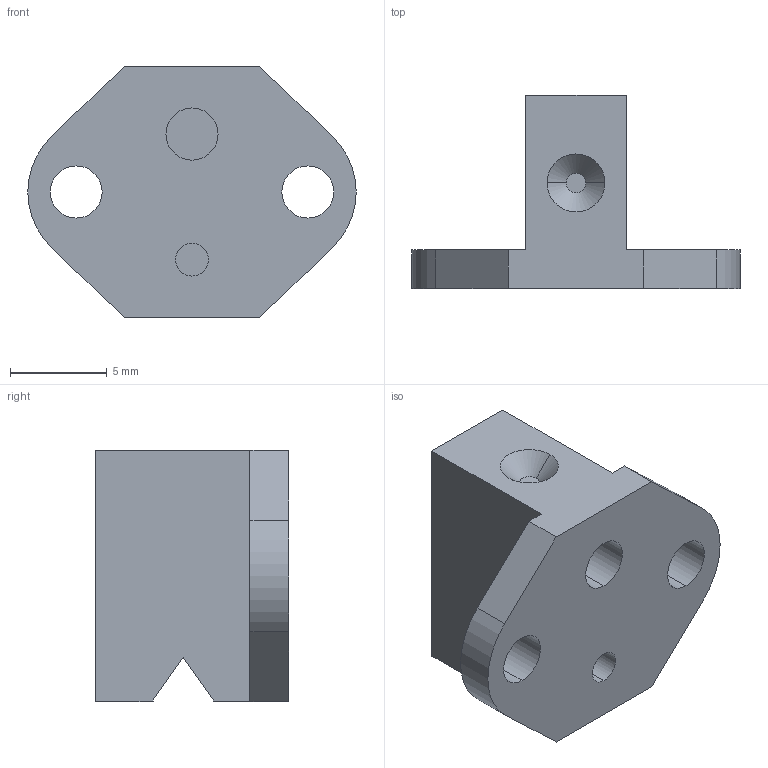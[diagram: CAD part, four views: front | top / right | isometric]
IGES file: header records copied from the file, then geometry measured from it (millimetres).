
Start section: 3D InterOp IGES (v. 2019 1.0.2), Spatial Corp. Copyright (c) 1999-2017.
Global section: file name: SS LB 12F.igs; native system: Spatial Corp.; preprocessor: 3D InterOp GENERIC/IGES 3.0; author: Noname; organization: Noname; date: 20220628.115130; units: millimetre
Bounding box: 17 x 10 x 13 mm (x, y, z)
Surface area: 783.6 mm2 (no closed solid volume)
Topology: 0 solids, 0 shells, 32 faces, 162 edges, 162 vertices
Faces by surface type: extrusion 20, revolution 12
